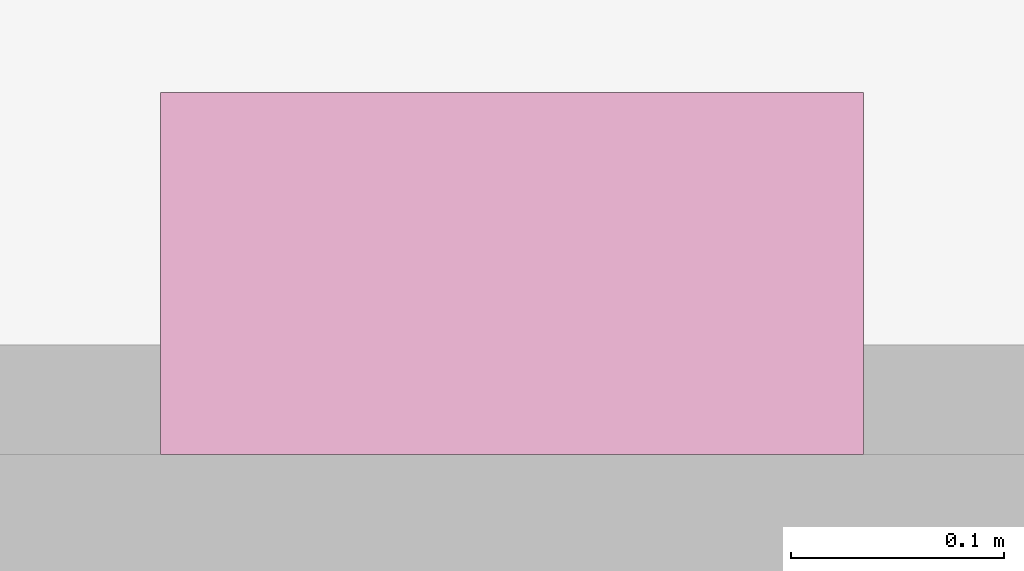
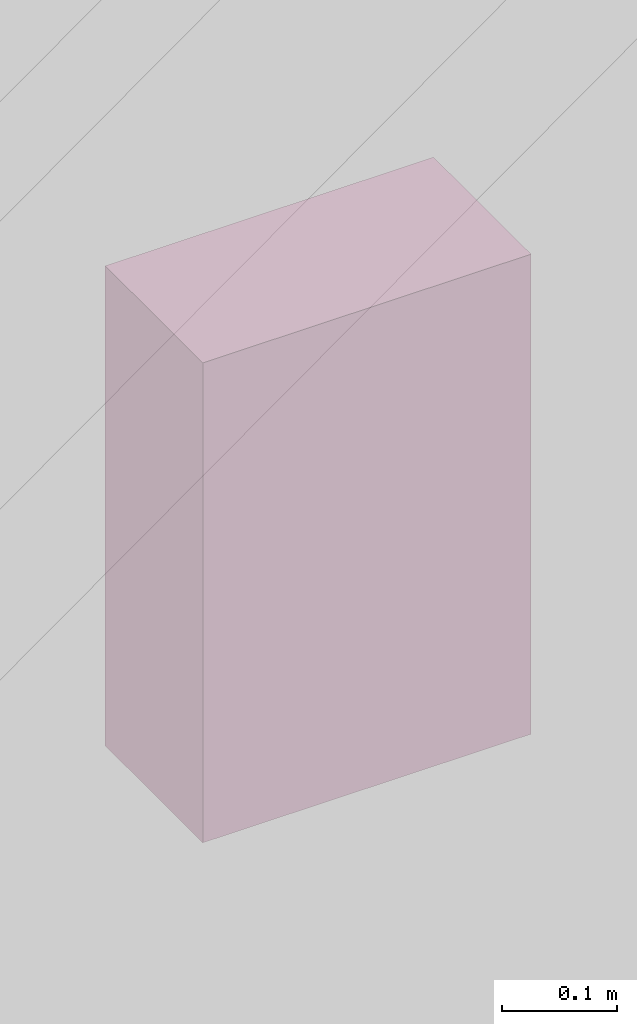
# One storey, part 35 of 37: 1 furnishing.
"""IFC2X3 building model written with IfcOpenShell, lengths in millimetres."""

from ifc_helpers import new_model, entity, si_unit, converted_unit, derived_unit, direction, frame, frame_2d, origin, origin_with_axes, place, context, subcontext, project, spatial, rectangle, extrude, source, transform, mapped, material, type_object, element, save


model = new_model("IFC2X3")

# Units and contexts
model_context = context("Model", 3, precision=0.01, world=frame((0.0, 4.29681676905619e-09, 0.0)), true_north=direction((4.01073788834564e-13, 1.0)))
plan_context = context("Plan", 3, precision=0.01, world=frame((0.0, 4.29681676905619e-09, 0.0)), true_north=direction((4.01073788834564e-13, 1.0)))
body_context = subcontext(model_context, "Body", "Model", "MODEL_VIEW")
ifc_project = project(units=[converted_unit("PLANEANGLEUNIT", "DEGREE", entity("IfcPositiveLengthMeasure", 0.0174532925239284), si_unit("PLANEANGLEUNIT", "RADIAN"), dimensions=[0, 0, 0, 0, 0, 0, 0]), si_unit("AREAUNIT", "SQUARE_METRE"), si_unit("LENGTHUNIT", "METRE", prefix="MILLI"), si_unit("MASSUNIT", "GRAM", prefix="KILO"), si_unit("POWERUNIT", "WATT"), si_unit("PRESSUREUNIT", "PASCAL"), si_unit("FORCEUNIT", "NEWTON", prefix="KILO"), si_unit("ELECTRICVOLTAGEUNIT", "VOLT"), si_unit("ELECTRICCURRENTUNIT", "AMPERE"), si_unit("THERMODYNAMICTEMPERATUREUNIT", "DEGREE_CELSIUS"), si_unit("TIMEUNIT", "SECOND"), si_unit("VOLUMEUNIT", "CUBIC_METRE"), derived_unit("LINEARVELOCITYUNIT", [(si_unit("LENGTHUNIT", "METRE"), 1), (si_unit("TIMEUNIT", "SECOND"), -1)]), derived_unit("VOLUMETRICFLOWRATEUNIT", [(si_unit("VOLUMEUNIT", "CUBIC_METRE"), 1), (si_unit("TIMEUNIT", "SECOND"), -1)]), derived_unit("THERMALTRANSMITTANCEUNIT", [(si_unit("POWERUNIT", "WATT"), 1), (si_unit("THERMODYNAMICTEMPERATUREUNIT", "KELVIN"), -1), (si_unit("AREAUNIT", "SQUARE_METRE"), -1)]), derived_unit("SOUNDPRESSUREUNIT", [(si_unit("PRESSUREUNIT", "PASCAL"), 1)])], contexts=[model_context, plan_context])

# Site, building, storey
site_placement = place(None, origin_with_axes())
site = spatial("IfcSite", under=ifc_project, at=site_placement, Name="ENGM", CompositionType="ELEMENT")
building_placement = place(site_placement, origin_with_axes())
building = spatial("IfcBuilding", under=site, at=building_placement, Name="TS", CompositionType="ELEMENT")
storey_placement = place(building_placement, frame((0.0, 0.0, 210900.0), z_axis=(0.0, 0.0, 1.0), x_axis=(1.0, 0.0, 0.0)))
storey = spatial("IfcBuildingStorey", under=building, at=storey_placement, Name="Nivå F", CompositionType="ELEMENT", Elevation=210900.0)

# Furnishing
ifc_material = material(Name="NSW - våtrom silver")
furniture_type = type_object("IfcFurnitureType", Name="A271 - Håndtorrer & Avfall & Såpedisp:A271 - Avfall - 330 x 170 x 510 - - H=250", AssemblyPlace="NOTDEFINED", material=ifc_material)
shared_shape = source(origin(), body_context, "Body", "SweptSolid", [
    extrude(rectangle(XDim=329.999999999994, YDim=170.000000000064, at=frame_2d((-2.8421709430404e-14, 0.0), x_axis=(1.0, 0.0))), frame((125.0, 147.250000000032, 250.0), z_axis=(0.0, 0.0, 1.0), x_axis=(-1.0, 0.0, 0.0)), (0.0, 0.0, 1.0), 510.0),
])
furnishing_placement = place(storey_placement, frame((532469.237500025, 440911.250000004, 750.0), z_axis=(0.0, 0.0, 1.0), x_axis=(1.0, 0.0, 0.0)))
element("IfcFurnishingElement", 1, at=furnishing_placement, inside=storey, type_object=furniture_type, material=ifc_material, Name="A271 - Håndtorrer & Avfall & Såpedisp:A271 - Avfall - 330 x 170 x 510 - - H=250", ObjectType="A271 - Håndtorrer & Avfall & Såpedisp:A271 - Avfall - 330 x 170 x 510 - - H=250", context=body_context, shape_type="MappedRepresentation", body=[
    mapped(shared_shape, transform((0.0, 0.0, 0.0), scale=1.0)),
])

save(model, "model.ifc")
